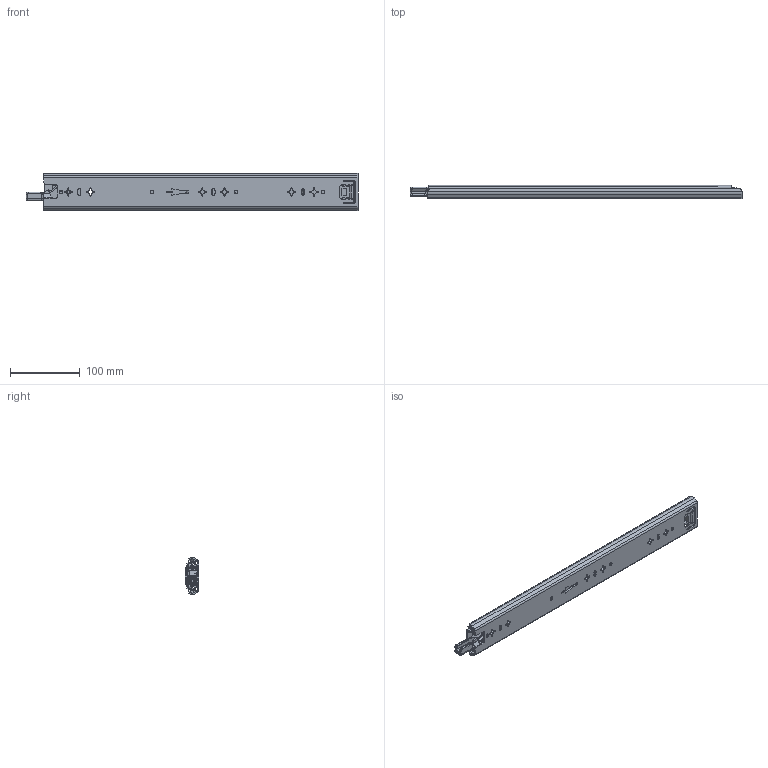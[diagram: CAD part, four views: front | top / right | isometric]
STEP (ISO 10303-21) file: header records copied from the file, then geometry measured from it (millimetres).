
FILE_DESCRIPTION((''),'2;1');
FILE_NAME('1053-3S-18ZUZHUANGTU_ASM','2023-04-06T',('jishu015'),(''),'PRO/ENGINEER BY PARAMETRIC TECHNOLOGY CORPORATION, 2010280','PRO/ENGINEER BY PARAMETRIC TECHNOLOGY CORPORATION, 2010280','');
FILE_SCHEMA(('CONFIG_CONTROL_DESIGN'));
Length unit declared in the file: millimetre
Products named in the file (20): 1053-02-18WAIKE12__; 1053WEIJIAO12__; 1053-3S-24WAIKE12___ASM; 1053ZHUTIAO-17521__; 53-5-6GANZHU21__; 1053ZHUTIAO-175MM21___ASM; 1053-02-18ZHONGGUI21__; ZHONGGUIPEIJIAN21__; ZHONGGUISUOKOU21__; 1053-02-18ZHONGGUI21___ASM; 1053XIAOZHUJIA-14GE21__; 1053XIAOZHUJIA-14GE21___ASM; 1053-02-18NEIGUI21__; DAOPIAN21__; PIAN21__; 1053-3SBANJI12321__; JIAO-121__; 50XINSUOKOU2__; 1053-02-18NEIGUI21___ASM; 1053-3S-18ZUZHUANGTU_ASM
Assembly tree (54 placements, depth 3):
  1053-3S-18ZUZHUANGTU_ASM
    1053-3S-24WAIKE12___ASM
      1053-02-18WAIKE12__
      1053WEIJIAO12__
    1053ZHUTIAO-175MM21___ASM  x2
      1053ZHUTIAO-17521__
      53-5-6GANZHU21__
    1053-02-18ZHONGGUI21___ASM
      1053-02-18ZHONGGUI21__
      ZHONGGUIPEIJIAN21__
      ZHONGGUISUOKOU21__
    1053XIAOZHUJIA-14GE21___ASM
      1053XIAOZHUJIA-14GE21__
      53-5-6GANZHU21__  x28
    1053-02-18NEIGUI21___ASM
      1053-02-18NEIGUI21__
      DAOPIAN21__
      PIAN21__
      1053-3SBANJI12321__
      JIAO-121__
      50XINSUOKOU2__
Bounding box: 475.42 x 18.7 x 53 mm (x, y, z)
Volume: 170135.2 mm3; surface area: 196347.2 mm2
Topology: 57 solids, 57 shells, 1741 faces, 4989 edges, 3145 vertices
Faces by surface type: plane 735, cylinder 726, sphere 92, bspline 87, cone 62, extrusion 23, torus 16
Entity records: 58308 total; most frequent: CARTESIAN_POINT 15192, ORIENTED_EDGE 9156, DIRECTION 8811, EDGE_CURVE 4578, AXIS2_PLACEMENT_3D 3043, VERTEX_POINT 2962, VECTOR 2725, LINE 2702
